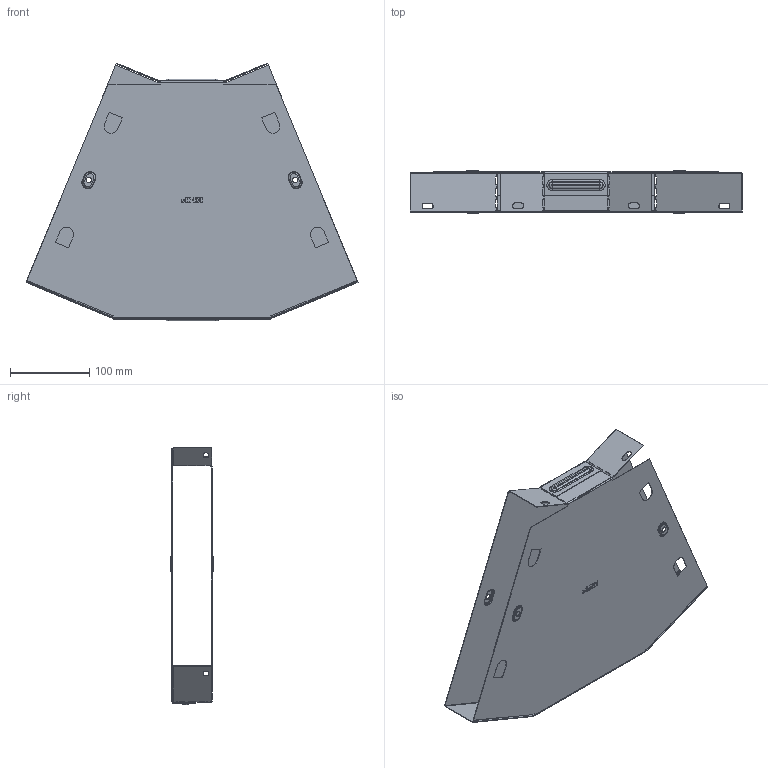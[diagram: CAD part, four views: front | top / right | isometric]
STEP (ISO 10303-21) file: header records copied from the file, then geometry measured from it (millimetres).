
FILE_DESCRIPTION (( 'STEP AP214' ), '1' );
FILE_NAME ('g4550300_捘.STEP', '2019-06-10T08:35:25', ( '砐錪賧瘔蠈錪 Windows' ), ( '' ), 'SwSTEP 2.0', 'SolidWorks 2018', '' );
FILE_SCHEMA (( 'AUTOMOTIVE_DESIGN' ));
Length unit declared in the file: millimetre
Products named in the file (1): g4550300_捘
Bounding box: 419.95 x 53.8 x 325.57 mm (x, y, z)
Volume: 179967.1 mm3; surface area: 453378.9 mm2
Topology: 2 solids, 2 shells, 510 faces, 1382 edges, 880 vertices
Faces by surface type: plane 286, cylinder 142, torus 64, bspline 18
Entity records: 16946 total; most frequent: CARTESIAN_POINT 3792, ORIENTED_EDGE 2764, DIRECTION 2712, EDGE_CURVE 1382, VECTOR 966, LINE 966, VERTEX_POINT 880, AXIS2_PLACEMENT_3D 873
